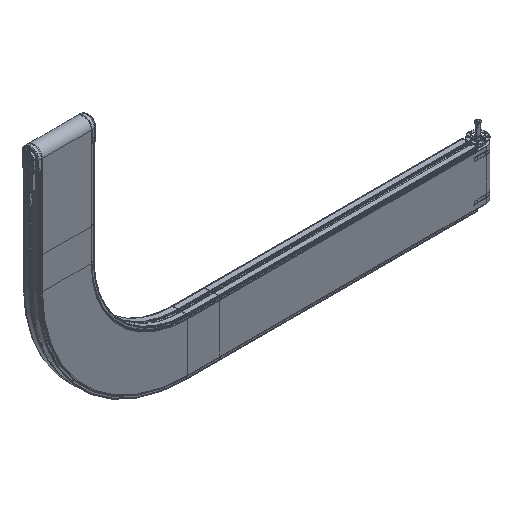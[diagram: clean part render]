
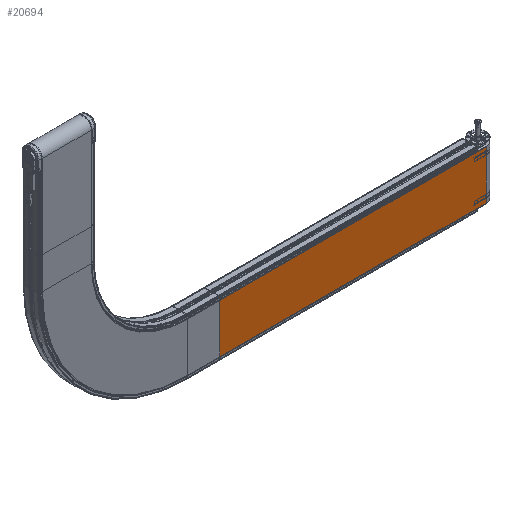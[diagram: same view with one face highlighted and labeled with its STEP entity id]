
A CAD part, isometric view. The second image highlights one B-rep face of the part: STEP entity #20694.
In plain terms, the highlighted planar face has unit normal (0, -1, 0).
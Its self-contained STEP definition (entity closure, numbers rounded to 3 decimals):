
#4281 = VECTOR ( 'NONE', #67262, 1000. ) ;
#8405 = VECTOR ( 'NONE', #70781, 1000. ) ;
#11521 = ORIENTED_EDGE ( 'NONE', *, *, #88166, .T. ) ;
#15047 = DIRECTION ( 'NONE',  ( 0., 1., 0. ) ) ;
#20694 = ADVANCED_FACE ( 'NONE', ( #38588 ), #54962, .F. ) ;
#20879 = VECTOR ( 'NONE', #59628, 1000. ) ;
#24474 = VECTOR ( 'NONE', #35195, 1000. ) ;
#27517 = LINE ( 'NONE', #75556, #24474 ) ;
#29415 = CARTESIAN_POINT ( 'NONE',  ( 114.3, -77.4, 1247. ) ) ;
#35195 = DIRECTION ( 'NONE',  ( 1., 0., 0. ) ) ;
#36078 = LINE ( 'NONE', #68249, #4281 ) ;
#38588 = FACE_OUTER_BOUND ( 'NONE', #91978, .T. ) ;
#42749 = CARTESIAN_POINT ( 'NONE',  ( -114.3, -77.4, 1247. ) ) ;
#43668 = EDGE_CURVE ( 'NONE', #56684, #53174, #27517, .T. ) ;
#48992 = CARTESIAN_POINT ( 'NONE',  ( -114.3, -77.4, 1247. ) ) ;
#49784 = ORIENTED_EDGE ( 'NONE', *, *, #58749, .T. ) ;
#53174 = VERTEX_POINT ( 'NONE', #29415 ) ;
#54962 = PLANE ( 'NONE',  #80710 ) ;
#56684 = VERTEX_POINT ( 'NONE', #48992 ) ;
#56963 = LINE ( 'NONE', #78436, #8405 ) ;
#57040 = ORIENTED_EDGE ( 'NONE', *, *, #66057, .F. ) ;
#58749 = EDGE_CURVE ( 'NONE', #100980, #98939, #56963, .T. ) ;
#59628 = DIRECTION ( 'NONE',  ( 0., 0., -1. ) ) ;
#63618 = CARTESIAN_POINT ( 'NONE',  ( 114.3, -77.4, 1247. ) ) ;
#66057 = EDGE_CURVE ( 'NONE', #53174, #98939, #36078, .T. ) ;
#67262 = DIRECTION ( 'NONE',  ( 0., 0., -1. ) ) ;
#68249 = CARTESIAN_POINT ( 'NONE',  ( 114.3, -77.4, 1247. ) ) ;
#70781 = DIRECTION ( 'NONE',  ( 1., 0., 0. ) ) ;
#73905 = CARTESIAN_POINT ( 'NONE',  ( 114.3, -77.4, 0. ) ) ;
#75556 = CARTESIAN_POINT ( 'NONE',  ( 114.3, -77.4, 1247. ) ) ;
#75704 = ORIENTED_EDGE ( 'NONE', *, *, #43668, .F. ) ;
#77439 = DIRECTION ( 'NONE',  ( -1., 0., 0. ) ) ;
#78436 = CARTESIAN_POINT ( 'NONE',  ( 114.3, -77.4, 0. ) ) ;
#79132 = CARTESIAN_POINT ( 'NONE',  ( -114.3, -77.4, 0. ) ) ;
#80710 = AXIS2_PLACEMENT_3D ( 'NONE', #63618, #15047, #77439 ) ;
#88166 = EDGE_CURVE ( 'NONE', #56684, #100980, #98413, .T. ) ;
#91978 = EDGE_LOOP ( 'NONE', ( #57040, #75704, #11521, #49784 ) ) ;
#98413 = LINE ( 'NONE', #42749, #20879 ) ;
#98939 = VERTEX_POINT ( 'NONE', #73905 ) ;
#100980 = VERTEX_POINT ( 'NONE', #79132 ) ;
